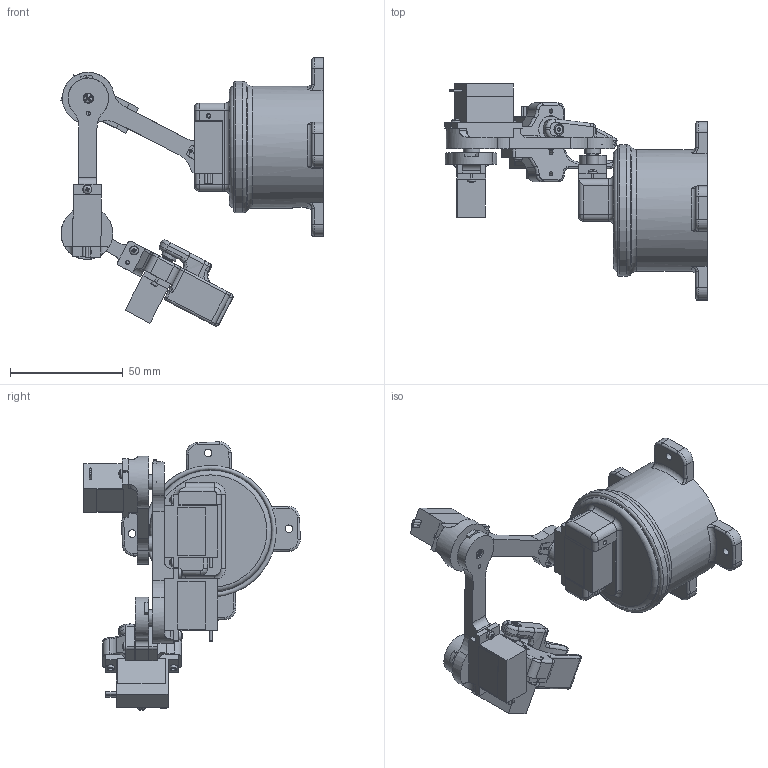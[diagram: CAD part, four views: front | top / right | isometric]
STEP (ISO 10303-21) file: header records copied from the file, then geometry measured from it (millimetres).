
FILE_DESCRIPTION(/* description */ ('','CAx-IF Rec.Pracs.---Representation and Presentation of Product Manufacturing Information (PMI)---4.0---2014-10-13'),/* implementation_level */ '2;1');
FILE_NAME(/* name */ 'Assieme_robot_eco.stp',/* time_stamp */ '2026-04-07T10:15:50+02:00',/* author */ ('R5800u'),/* organization */ (''),/* preprocessor_version */ 'ST-DEVELOPER v20',/* originating_system */ 'Autodesk Inventor 2025',/* authorisation */ '');
FILE_SCHEMA (('AP242_MANAGED_MODEL_BASED_3D_ENGINEERING_MIM_LF { 1 0 10303 442 1 1 4 }'));
Length unit declared in the file: millimetre
Products named in the file (15): Assieme_pinza_mg90s_chiusa; base; base_cilindro; MG90S ARM doppio; braccio_3; braccio_1; Assieme_blocco_pinza; blocco_pinza_eco_orizzontale_b; MG90_ldb_v2; dito_pinza_mg90s; MG90S ARM singolo; Vite a testa cilindrica incassata esalobulare ISO 14580 - M2x8-4.8; ANSI B18.3.1M - M1,6x0,35 x 8, FSHCSM; ANSI B18.6.5M - M2x0,4 x 8  - T - IA; AS 1427 - M2,5 x 8
Assembly tree (35 placements, depth 3):
  Assieme_pinza_mg90s_chiusa
    braccio_1  x2
    base
    base_cilindro
    MG90_ldb_v2  x4
    MG90S ARM doppio  x4
    braccio_3
    Assieme_blocco_pinza
      blocco_pinza_eco_orizzontale_b
      MG90_ldb_v2
      dito_pinza_mg90s
      MG90S ARM singolo
      Vite a testa cilindrica incassata esalobulare ISO 14580 - M2x8-4.8
      ANSI B18.3.1M - M1,6x0,35 x 8, FSHCSM  x2
    AS 1427 - M2,5 x 8  x4
    ANSI B18.6.5M - M2x0,4 x 8  - T - IA  x10
Bounding box: 116.34 x 96.08 x 119.03 mm (x, y, z)
Volume: 105896 mm3; surface area: 60758.8 mm2
Topology: 34 solids, 34 shells, 2622 faces, 7240 edges, 4755 vertices
Faces by surface type: plane 1585, cylinder 661, cone 208, torus 121, bspline 25, sphere 22
Full cylindrical faces by diameter (mm): 1.167 x15, 1.2 x32, 1.6 x2, 1.8 x12, 1.9 x4, 2 x14, 2.2 x10, 2.224 x4, 2.5 x4, 2.7 x1, 2.9 x4, 3 x2, 3.4 x4, 4.5 x3, 4.75 x5, 5 x6, 5.5 x6, 6.8 x9, 50 x1, 54 x2, 54.4 x1, 58.4 x1
Entity records: 39907 total; most frequent: CARTESIAN_POINT 10047, DIRECTION 5994, ORIENTED_EDGE 4702, EDGE_CURVE 2351, AXIS2_PLACEMENT_3D 2295, STYLED_ITEM 1800, VERTEX_POINT 1519, LINE 1404
